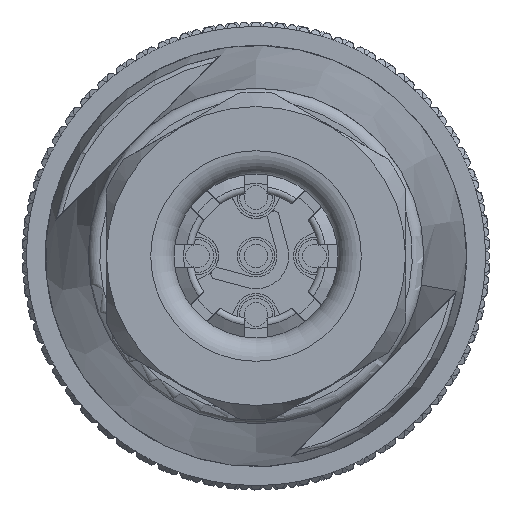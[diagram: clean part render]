
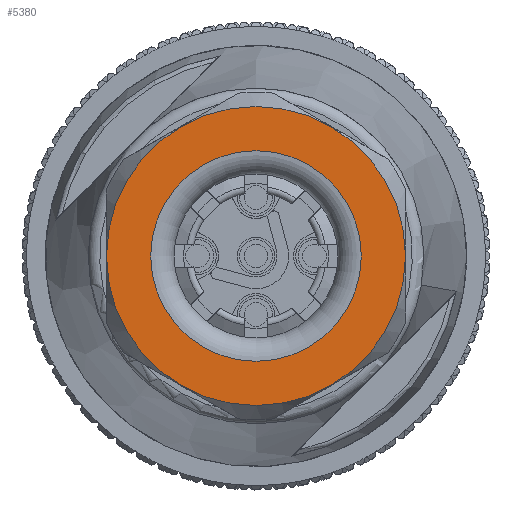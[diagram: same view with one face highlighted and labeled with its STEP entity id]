
A CAD part, front view. The second image highlights one B-rep face of the part: STEP entity #5380.
In plain terms, the highlighted planar face has unit normal (0, -1, 0).
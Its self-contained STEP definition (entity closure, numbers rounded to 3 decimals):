
#4577=PLANE('',#21002);
#5380=ADVANCED_FACE('',(#6618,#6619),#4577,.F.);
#6618=FACE_BOUND('',#7400,.T.);
#6619=FACE_BOUND('',#7401,.T.);
#7400=EDGE_LOOP('',(#10499));
#7401=EDGE_LOOP('',(#10500));
#10499=ORIENTED_EDGE('',*,*,#17139,.T.);
#10500=ORIENTED_EDGE('',*,*,#17140,.T.);
#14886=VERTEX_POINT('',#45138);
#14887=VERTEX_POINT('',#45140);
#17139=EDGE_CURVE('',#14886,#14886,#19408,.T.);
#17140=EDGE_CURVE('',#14887,#14887,#19409,.T.);
#19408=CIRCLE('',#21000,4.5);
#19409=CIRCLE('',#21001,6.39);
#21000=AXIS2_PLACEMENT_3D('',#45137,#24595,#24596);
#21001=AXIS2_PLACEMENT_3D('',#45139,#24597,#24598);
#21002=AXIS2_PLACEMENT_3D('',#45141,#24599,#24600);
#24595=DIRECTION('',(0.,1.,0.));
#24596=DIRECTION('',(1.,0.,0.));
#24597=DIRECTION('',(0.,-1.,0.));
#24598=DIRECTION('',(-1.,0.,0.));
#24599=DIRECTION('',(0.,1.,0.));
#24600=DIRECTION('',(-1.,0.,0.));
#45137=CARTESIAN_POINT('',(0.,-52.975,0.));
#45138=CARTESIAN_POINT('',(4.5,-52.975,0.));
#45139=CARTESIAN_POINT('',(0.,-52.975,0.));
#45140=CARTESIAN_POINT('',(-6.39,-52.975,0.));
#45141=CARTESIAN_POINT('',(0.,-52.975,0.));
